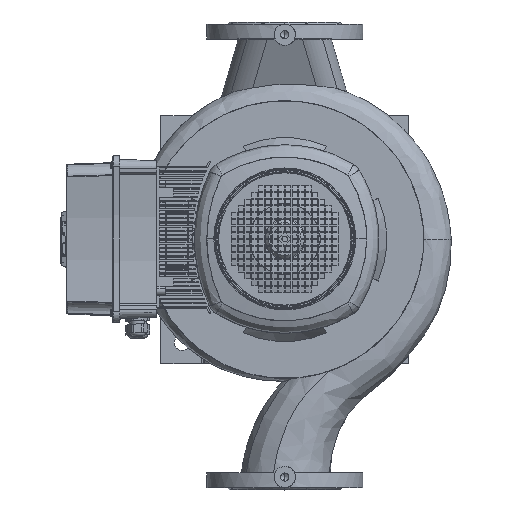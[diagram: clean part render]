
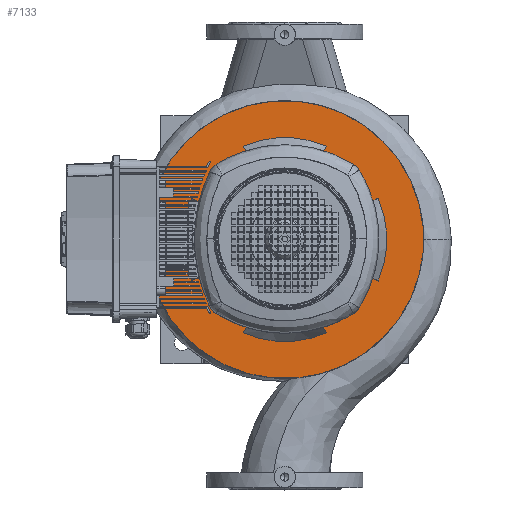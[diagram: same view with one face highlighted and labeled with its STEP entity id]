
A CAD part, top view. The second image highlights one B-rep face of the part: STEP entity #7133.
In plain terms, the highlighted planar face has unit normal (0, 0, 1) as drawn and (1, 0, 0) by its records, which use the part's own axes.
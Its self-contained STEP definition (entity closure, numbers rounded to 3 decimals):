
#7133=ADVANCED_FACE('',(#18425,#18426),#18427,.T.);
#7157=EDGE_CURVE('',#18466,#18467,#18468,.T.);
#7181=EDGE_CURVE('',#18510,#18511,#18512,.T.);
#7189=EDGE_CURVE('',#18520,#18523,#18524,.T.);
#7197=EDGE_CURVE('',#18532,#18535,#18536,.T.);
#7203=EDGE_CURVE('',#18539,#18511,#18544,.T.);
#7205=EDGE_CURVE('',#18546,#18523,#18547,.T.);
#7213=EDGE_CURVE('',#18558,#18554,#18559,.T.);
#7221=EDGE_CURVE('',#18569,#18565,#18570,.T.);
#7229=EDGE_CURVE('',#18576,#18579,#18580,.T.);
#7239=EDGE_CURVE('',#18590,#18520,#18593,.T.);
#7245=EDGE_CURVE('',#18598,#18532,#18601,.T.);
#7253=EDGE_CURVE('',#18609,#18604,#18612,.T.);
#7255=EDGE_CURVE('',#18535,#18554,#18614,.T.);
#7259=EDGE_CURVE('',#18604,#18565,#18618,.T.);
#7263=EDGE_CURVE('',#18579,#18510,#18622,.T.);
#7267=EDGE_CURVE('',#18546,#18598,#18626,.T.);
#7271=EDGE_CURVE('',#18558,#18609,#18630,.T.);
#7273=EDGE_CURVE('',#18539,#18590,#18632,.T.);
#7277=EDGE_CURVE('',#18467,#18466,#18636,.T.);
#7279=EDGE_CURVE('',#18569,#18576,#18638,.T.);
#18425=FACE_OUTER_BOUND('',#35000,.T.);
#18426=FACE_BOUND('',#35001,.T.);
#18427=PLANE('',#35002);
#18466=VERTEX_POINT('',#35043);
#18467=VERTEX_POINT('',#35044);
#18468=CIRCLE('',#35045,196.0);
#18510=VERTEX_POINT('',#35099);
#18511=VERTEX_POINT('',#35100);
#18512=CIRCLE('',#35101,132.799);
#18520=VERTEX_POINT('',#35121);
#18523=VERTEX_POINT('',#35134);
#18524=CIRCLE('',#35135,132.799);
#18532=VERTEX_POINT('',#35155);
#18535=VERTEX_POINT('',#35168);
#18536=CIRCLE('',#35169,132.799);
#18539=VERTEX_POINT('',#35173);
#18544=LINE('',#35190,#35191);
#18546=VERTEX_POINT('',#35194);
#18547=LINE('',#35195,#35196);
#18554=VERTEX_POINT('',#35216);
#18558=VERTEX_POINT('',#35230);
#18559=LINE('',#35231,#35232);
#18565=VERTEX_POINT('',#35251);
#18569=VERTEX_POINT('',#35265);
#18570=LINE('',#35266,#35267);
#18576=VERTEX_POINT('',#35286);
#18579=VERTEX_POINT('',#35299);
#18580=LINE('',#35300,#35301);
#18590=VERTEX_POINT('',#35326);
#18593=LINE('',#35339,#35340);
#18598=VERTEX_POINT('',#35348);
#18601=LINE('',#35361,#35362);
#18604=VERTEX_POINT('',#35366);
#18609=VERTEX_POINT('',#35383);
#18612=LINE('',#35396,#35397);
#18614=CIRCLE('',#35400,132.799);
#18618=CIRCLE('',#35406,132.799);
#18622=CIRCLE('',#35412,132.799);
#18626=CIRCLE('',#35418,144.0);
#18630=CIRCLE('',#35424,144.0);
#18632=CIRCLE('',#35427,144.0);
#18636=CIRCLE('',#35433,196.0);
#18638=CIRCLE('',#35436,144.0);
#35000=EDGE_LOOP('',(#75744,#75745));
#35001=EDGE_LOOP('',(#75746,#75747,#75748,#75749,#75750,#75751,#75752,#75753,#75754,#75755,#75756,#75757,#75758,#75759,#75760,#75761,#75762,#75763));
#35002=AXIS2_PLACEMENT_3D('',#75764,#75765,#75766);
#35043=CARTESIAN_POINT('',(20.0,196.0,0.0));
#35044=CARTESIAN_POINT('',(20.0,-196.0,0.));
#35045=AXIS2_PLACEMENT_3D('',#75866,#75867,#75868);
#35099=CARTESIAN_POINT('',(20.0,-132.799,0.));
#35100=CARTESIAN_POINT('',(20.0,-123.51,-48.794));
#35101=AXIS2_PLACEMENT_3D('',#75902,#75903,#75904);
#35121=CARTESIAN_POINT('',(20.0,-48.794,-123.51));
#35134=CARTESIAN_POINT('',(20.0,48.794,-123.51));
#35135=AXIS2_PLACEMENT_3D('',#75908,#75909,#75910);
#35155=CARTESIAN_POINT('',(20.0,123.51,-48.794));
#35168=CARTESIAN_POINT('',(20.0,132.799,0.));
#35169=AXIS2_PLACEMENT_3D('',#75914,#75915,#75916);
#35173=CARTESIAN_POINT('',(20.0,-134.395,-51.711));
#35190=CARTESIAN_POINT('',(20.0,-134.395,-51.711));
#35191=VECTOR('',#75918,1.0);
#35194=CARTESIAN_POINT('',(20.0,51.711,-134.395));
#35195=CARTESIAN_POINT('',(20.0,51.711,-134.395));
#35196=VECTOR('',#75919,1.0);
#35216=CARTESIAN_POINT('',(20.0,123.51,48.794));
#35230=CARTESIAN_POINT('',(20.0,134.395,51.711));
#35231=CARTESIAN_POINT('',(20.0,134.395,51.711));
#35232=VECTOR('',#75921,1.0);
#35251=CARTESIAN_POINT('',(20.0,-48.794,123.51));
#35265=CARTESIAN_POINT('',(20.0,-51.711,134.395));
#35266=CARTESIAN_POINT('',(20.0,-51.711,134.395));
#35267=VECTOR('',#75923,1.0);
#35286=CARTESIAN_POINT('',(20.0,-134.395,51.711));
#35299=CARTESIAN_POINT('',(20.0,-123.51,48.794));
#35300=CARTESIAN_POINT('',(20.0,-134.395,51.711));
#35301=VECTOR('',#75925,1.0);
#35326=CARTESIAN_POINT('',(20.0,-51.711,-134.395));
#35339=CARTESIAN_POINT('',(20.0,-51.711,-134.395));
#35340=VECTOR('',#75928,1.0);
#35348=CARTESIAN_POINT('',(20.0,134.395,-51.711));
#35361=CARTESIAN_POINT('',(20.0,134.395,-51.711));
#35362=VECTOR('',#75930,1.0);
#35366=CARTESIAN_POINT('',(20.0,48.794,123.51));
#35383=CARTESIAN_POINT('',(20.0,51.711,134.395));
#35396=CARTESIAN_POINT('',(20.0,51.711,134.395));
#35397=VECTOR('',#75932,1.0);
#35400=AXIS2_PLACEMENT_3D('',#75933,#75934,#75935);
#35406=AXIS2_PLACEMENT_3D('',#75939,#75940,#75941);
#35412=AXIS2_PLACEMENT_3D('',#75945,#75946,#75947);
#35418=AXIS2_PLACEMENT_3D('',#75951,#75952,#75953);
#35424=AXIS2_PLACEMENT_3D('',#75957,#75958,#75959);
#35427=AXIS2_PLACEMENT_3D('',#75960,#75961,#75962);
#35433=AXIS2_PLACEMENT_3D('',#75966,#75967,#75968);
#35436=AXIS2_PLACEMENT_3D('',#75969,#75970,#75971);
#75744=ORIENTED_EDGE('',*,*,#7157,.T.);
#75745=ORIENTED_EDGE('',*,*,#7277,.T.);
#75746=ORIENTED_EDGE('',*,*,#7279,.F.);
#75747=ORIENTED_EDGE('',*,*,#7221,.T.);
#75748=ORIENTED_EDGE('',*,*,#7259,.F.);
#75749=ORIENTED_EDGE('',*,*,#7253,.F.);
#75750=ORIENTED_EDGE('',*,*,#7271,.F.);
#75751=ORIENTED_EDGE('',*,*,#7213,.T.);
#75752=ORIENTED_EDGE('',*,*,#7255,.F.);
#75753=ORIENTED_EDGE('',*,*,#7197,.F.);
#75754=ORIENTED_EDGE('',*,*,#7245,.F.);
#75755=ORIENTED_EDGE('',*,*,#7267,.F.);
#75756=ORIENTED_EDGE('',*,*,#7205,.T.);
#75757=ORIENTED_EDGE('',*,*,#7189,.F.);
#75758=ORIENTED_EDGE('',*,*,#7239,.F.);
#75759=ORIENTED_EDGE('',*,*,#7273,.F.);
#75760=ORIENTED_EDGE('',*,*,#7203,.T.);
#75761=ORIENTED_EDGE('',*,*,#7181,.F.);
#75762=ORIENTED_EDGE('',*,*,#7263,.F.);
#75763=ORIENTED_EDGE('',*,*,#7229,.F.);
#75764=CARTESIAN_POINT('',(20.0,170.0,0.0));
#75765=DIRECTION('',(1.0,0.0,0.0));
#75766=DIRECTION('',(0.0,0.0,-1.0));
#75866=CARTESIAN_POINT('',(20.0,0.0,0.0));
#75867=DIRECTION('',(1.0,0.0,0.0));
#75868=DIRECTION('',(0.0,1.0,0.0));
#75902=CARTESIAN_POINT('',(20.0,0.0,0.0));
#75903=DIRECTION('',(1.0,0.0,-0.0));
#75904=DIRECTION('',(0.0,1.0,0.));
#75908=CARTESIAN_POINT('',(20.0,0.0,0.0));
#75909=DIRECTION('',(1.0,0.0,-0.0));
#75910=DIRECTION('',(0.0,1.0,0.));
#75914=CARTESIAN_POINT('',(20.0,0.0,0.0));
#75915=DIRECTION('',(1.0,0.0,-0.0));
#75916=DIRECTION('',(0.0,1.0,0.));
#75918=DIRECTION('',(0.,0.966,0.259));
#75919=DIRECTION('',(0.,-0.259,0.966));
#75921=DIRECTION('',(0.,-0.966,-0.259));
#75923=DIRECTION('',(0.,0.259,-0.966));
#75925=DIRECTION('',(0.,0.966,-0.259));
#75928=DIRECTION('',(0.,0.259,0.966));
#75930=DIRECTION('',(0.,-0.966,0.259));
#75932=DIRECTION('',(0.,-0.259,-0.966));
#75933=CARTESIAN_POINT('',(20.0,0.0,0.0));
#75934=DIRECTION('',(1.0,0.0,-0.0));
#75935=DIRECTION('',(0.0,1.0,0.));
#75939=CARTESIAN_POINT('',(20.0,0.0,0.0));
#75940=DIRECTION('',(1.0,0.0,-0.0));
#75941=DIRECTION('',(0.0,1.0,0.));
#75945=CARTESIAN_POINT('',(20.0,0.0,0.0));
#75946=DIRECTION('',(1.0,0.0,-0.0));
#75947=DIRECTION('',(0.0,1.0,0.));
#75951=CARTESIAN_POINT('',(20.0,0.0,0.0));
#75952=DIRECTION('',(1.0,0.0,0.0));
#75953=DIRECTION('',(0.0,1.0,0.0));
#75957=CARTESIAN_POINT('',(20.0,0.0,0.0));
#75958=DIRECTION('',(1.0,0.0,0.0));
#75959=DIRECTION('',(0.0,1.0,0.0));
#75960=CARTESIAN_POINT('',(20.0,0.0,0.0));
#75961=DIRECTION('',(1.0,0.0,0.0));
#75962=DIRECTION('',(0.0,1.0,0.0));
#75966=CARTESIAN_POINT('',(20.0,0.0,0.0));
#75967=DIRECTION('',(1.0,0.0,0.0));
#75968=DIRECTION('',(0.0,1.0,0.0));
#75969=CARTESIAN_POINT('',(20.0,0.0,0.0));
#75970=DIRECTION('',(1.0,0.0,0.0));
#75971=DIRECTION('',(0.0,1.0,0.0));
